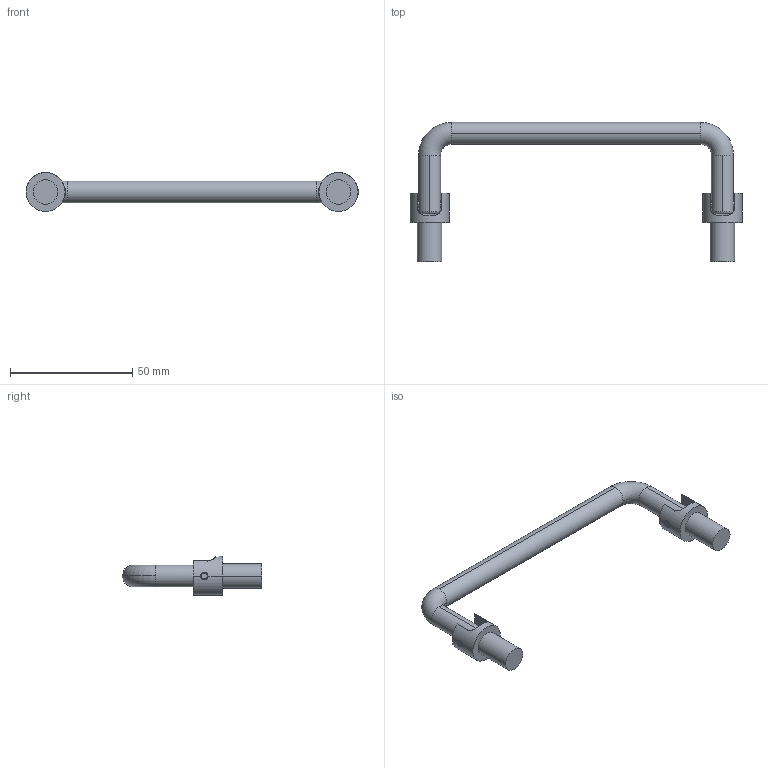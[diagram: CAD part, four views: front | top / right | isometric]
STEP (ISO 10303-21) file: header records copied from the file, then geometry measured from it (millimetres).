
FILE_DESCRIPTION (( 'STEP AP203' ), '1' );
FILE_NAME ('E04-504120.STEP', '2024-10-29T03:16:08', ( '' ), ( '' ), 'SwSTEP 2.0', 'SolidWorks 2021', '' );
FILE_SCHEMA (( 'CONFIG_CONTROL_DESIGN' ));
Length unit declared in the file: millimetre
Products named in the file (4): E04-504120; E04-504-1; PIN3-15; E04-504120-1
Assembly tree (5 placements, depth 2):
  E04-504120
    E04-504-1  x2
    PIN3-15  x2
    E04-504120-1
Bounding box: 136 x 57 x 16 mm (x, y, z)
Volume: 16514.8 mm3; surface area: 9046.1 mm2
Topology: 5 solids, 5 shells, 74 faces, 192 edges, 122 vertices
Faces by surface type: cylinder 38, plane 20, torus 16
Entity records: 2334 total; most frequent: CARTESIAN_POINT 683, DIRECTION 272, ORIENTED_EDGE 244, EDGE_CURVE 122, AXIS2_PLACEMENT_3D 119, VERTEX_POINT 78, CIRCLE 64, EDGE_LOOP 52
